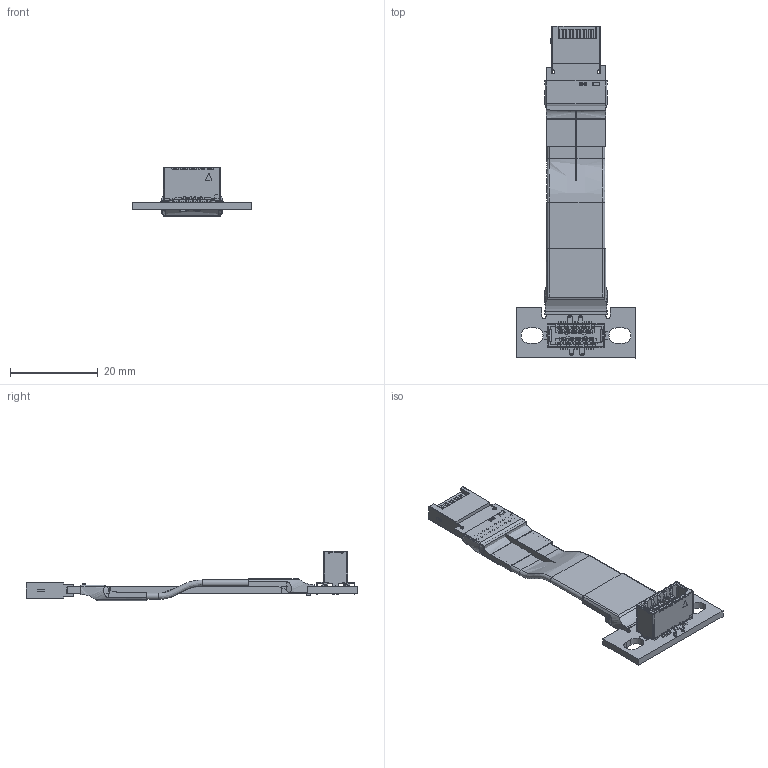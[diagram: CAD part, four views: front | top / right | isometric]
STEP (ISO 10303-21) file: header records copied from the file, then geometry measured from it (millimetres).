
FILE_DESCRIPTION(('Open CASCADE Model'),'2;1');
FILE_NAME('Open CASCADE Shape Model','2022-07-20T21:35:44',('Author'),( 'Open CASCADE'),'Open CASCADE STEP processor 6.8','Open CASCADE 6.8' ,'Unknown');
FILE_SCHEMA(('AUTOMOTIVE_DESIGN { 1 0 10303 214 1 1 1 1 }'));
Length unit declared in the file: millimetre
Products named in the file (69): PCB; Board; Open CASCADE STEP translator 6.8 3.1.1; _2; 0603_RES; Capsule; Encapsulation; TopCover; Designator64_1; type-e_F1-20p; _1_1; C0603_060; _1; Designator64; type-E_female3_20220720; Open CASCADE STEP translator 6.8 3.7; Free-Models; cable20-A2C3; R11SL-F_3.0___Heat_shrink_tube_20220207
Assembly tree (74 placements, depth 4):
  PCB
    Board
      Open CASCADE STEP translator 6.8 3.1.1
    _2
      0603_RES
        Capsule
        Encapsulation  x2
        TopCover
    Designator64_1
      type-e_F1-20p
    _1_1
      C0603_060
      C0603_060
      C0603_060
    _1
      C0603_060
      C0603_060
      C0603_060
    Designator64
      type-E_female3_20220720
      type-E_female3_20220720
      type-E_female3_20220720
      type-E_female3_20220720
      type-E_female3_20220720
      type-E_female3_20220720
      type-E_female3_20220720
      type-E_female3_20220720
      type-E_female3_20220720
      type-E_female3_20220720
    Open CASCADE STEP translator 6.8 3.7
      0603_RES
        Capsule
        Encapsulation  x2
        TopCover
    Free-Models
      cable20-A2C3
      cable20-A2C3
      cable20-A2C3
      cable20-A2C3
      cable20-A2C3
      cable20-A2C3
      cable20-A2C3
      cable20-A2C3
      cable20-A2C3
      cable20-A2C3
      cable20-A2C3
      cable20-A2C3
      cable20-A2C3
      cable20-A2C3
      cable20-A2C3
      cable20-A2C3
      cable20-A2C3
      cable20-A2C3
      cable20-A2C3
      cable20-A2C3
      cable20-A2C3
      cable20-A2C3
      cable20-A2C3
      cable20-A2C3
      cable20-A2C3
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Bounding box: 27.23 x 75.65 x 11.2 mm (x, y, z)
Volume: 2254 mm3; surface area: 8221 mm2
Topology: 68 solids, 68 shells, 2395 faces, 6433 edges, 4216 vertices
Faces by surface type: plane 1558, cylinder 558, bspline 170, torus 44, extrusion 36, sphere 16, offset 12, cone 1
Full cylindrical faces by diameter (mm): 0.4 x96, 0.404 x2, 0.405 x2, 0.6 x40, 0.7 x4, 0.8 x2, 0.85 x2, 1.15 x2
Entity records: 90775 total; most frequent: CARTESIAN_POINT 17593, ORIENTED_EDGE 11702, DIRECTION 10544, EDGE_CURVE 5847, VECTOR 4368, LINE 4334, VERTEX_POINT 3844, AXIS2_PLACEMENT_3D 3088
